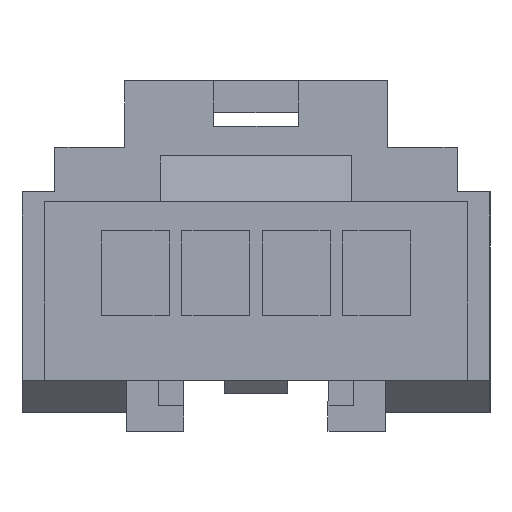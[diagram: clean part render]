
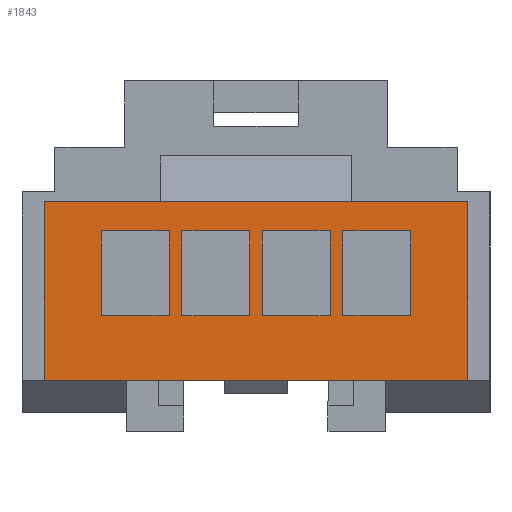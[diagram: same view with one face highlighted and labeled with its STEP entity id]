
A CAD part, front view. The second image highlights one B-rep face of the part: STEP entity #1843.
In plain terms, the highlighted planar face has unit normal (0, -1, 0).
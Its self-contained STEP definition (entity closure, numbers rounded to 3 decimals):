
#1687=AXIS2_PLACEMENT_3D('Plane Axis2P3D',#1684,#1685,#1686) ;
#450=CARTESIAN_POINT('Vertex',(10.,-18.25,-5.85)) ;
#453=CARTESIAN_POINT('Line Origine',(0.,-18.25,-5.85)) ;
#457=CARTESIAN_POINT('Vertex',(-10.,-18.25,-5.85)) ;
#1662=CARTESIAN_POINT('Vertex',(10.,-18.25,2.6)) ;
#1667=CARTESIAN_POINT('Line Origine',(10.,-18.25,-1.625)) ;
#1684=CARTESIAN_POINT('Axis2P3D Location',(-10.4,-18.25,-6.019)) ;
#1689=CARTESIAN_POINT('Line Origine',(0.,-18.25,2.6)) ;
#1693=CARTESIAN_POINT('Vertex',(-10.,-18.25,2.6)) ;
#1696=CARTESIAN_POINT('Line Origine',(-10.,-18.25,-1.625)) ;
#1707=CARTESIAN_POINT('Line Origine',(-5.7,-18.25,1.21)) ;
#1711=CARTESIAN_POINT('Vertex',(-4.1,-18.25,1.21)) ;
#1713=CARTESIAN_POINT('Vertex',(-7.3,-18.25,1.21)) ;
#1716=CARTESIAN_POINT('Line Origine',(-4.1,-18.25,-0.79)) ;
#1720=CARTESIAN_POINT('Vertex',(-4.1,-18.25,-2.79)) ;
#1723=CARTESIAN_POINT('Line Origine',(-5.7,-18.25,-2.79)) ;
#1727=CARTESIAN_POINT('Vertex',(-7.3,-18.25,-2.79)) ;
#1730=CARTESIAN_POINT('Line Origine',(-7.3,-18.25,-0.79)) ;
#1741=CARTESIAN_POINT('Line Origine',(-1.9,-18.25,1.21)) ;
#1745=CARTESIAN_POINT('Vertex',(-0.3,-18.25,1.21)) ;
#1747=CARTESIAN_POINT('Vertex',(-3.5,-18.25,1.21)) ;
#1750=CARTESIAN_POINT('Line Origine',(-0.3,-18.25,-0.79)) ;
#1754=CARTESIAN_POINT('Vertex',(-0.3,-18.25,-2.79)) ;
#1757=CARTESIAN_POINT('Line Origine',(-1.9,-18.25,-2.79)) ;
#1761=CARTESIAN_POINT('Vertex',(-3.5,-18.25,-2.79)) ;
#1764=CARTESIAN_POINT('Line Origine',(-3.5,-18.25,-0.79)) ;
#1775=CARTESIAN_POINT('Line Origine',(1.9,-18.25,1.21)) ;
#1779=CARTESIAN_POINT('Vertex',(3.5,-18.25,1.21)) ;
#1781=CARTESIAN_POINT('Vertex',(0.3,-18.25,1.21)) ;
#1784=CARTESIAN_POINT('Line Origine',(3.5,-18.25,-0.79)) ;
#1788=CARTESIAN_POINT('Vertex',(3.5,-18.25,-2.79)) ;
#1791=CARTESIAN_POINT('Line Origine',(1.9,-18.25,-2.79)) ;
#1795=CARTESIAN_POINT('Vertex',(0.3,-18.25,-2.79)) ;
#1798=CARTESIAN_POINT('Line Origine',(0.3,-18.25,-0.79)) ;
#1809=CARTESIAN_POINT('Line Origine',(5.7,-18.25,1.21)) ;
#1813=CARTESIAN_POINT('Vertex',(7.3,-18.25,1.21)) ;
#1815=CARTESIAN_POINT('Vertex',(4.1,-18.25,1.21)) ;
#1818=CARTESIAN_POINT('Line Origine',(7.3,-18.25,-0.79)) ;
#1822=CARTESIAN_POINT('Vertex',(7.3,-18.25,-2.79)) ;
#1825=CARTESIAN_POINT('Line Origine',(5.7,-18.25,-2.79)) ;
#1829=CARTESIAN_POINT('Vertex',(4.1,-18.25,-2.79)) ;
#1832=CARTESIAN_POINT('Line Origine',(4.1,-18.25,-0.79)) ;
#454=DIRECTION('Vector Direction',(-1.,0.,0.)) ;
#1668=DIRECTION('Vector Direction',(0.,0.,-1.)) ;
#1685=DIRECTION('Axis2P3D Direction',(0.,-1.,0.)) ;
#1686=DIRECTION('Axis2P3D XDirection',(1.,0.,0.)) ;
#1690=DIRECTION('Vector Direction',(1.,0.,0.)) ;
#1697=DIRECTION('Vector Direction',(0.,0.,1.)) ;
#1708=DIRECTION('Vector Direction',(1.,0.,0.)) ;
#1717=DIRECTION('Vector Direction',(0.,0.,1.)) ;
#1724=DIRECTION('Vector Direction',(-1.,0.,0.)) ;
#1731=DIRECTION('Vector Direction',(0.,0.,-1.)) ;
#1742=DIRECTION('Vector Direction',(1.,0.,0.)) ;
#1751=DIRECTION('Vector Direction',(0.,0.,1.)) ;
#1758=DIRECTION('Vector Direction',(-1.,0.,0.)) ;
#1765=DIRECTION('Vector Direction',(0.,0.,-1.)) ;
#1776=DIRECTION('Vector Direction',(1.,0.,0.)) ;
#1785=DIRECTION('Vector Direction',(0.,0.,1.)) ;
#1792=DIRECTION('Vector Direction',(-1.,0.,0.)) ;
#1799=DIRECTION('Vector Direction',(0.,0.,-1.)) ;
#1810=DIRECTION('Vector Direction',(1.,0.,0.)) ;
#1819=DIRECTION('Vector Direction',(0.,0.,1.)) ;
#1826=DIRECTION('Vector Direction',(-1.,0.,0.)) ;
#1833=DIRECTION('Vector Direction',(0.,0.,-1.)) ;
#455=VECTOR('Line Direction',#454,1.) ;
#1669=VECTOR('Line Direction',#1668,1.) ;
#1691=VECTOR('Line Direction',#1690,1.) ;
#1698=VECTOR('Line Direction',#1697,1.) ;
#1709=VECTOR('Line Direction',#1708,1.) ;
#1718=VECTOR('Line Direction',#1717,1.) ;
#1725=VECTOR('Line Direction',#1724,1.) ;
#1732=VECTOR('Line Direction',#1731,1.) ;
#1743=VECTOR('Line Direction',#1742,1.) ;
#1752=VECTOR('Line Direction',#1751,1.) ;
#1759=VECTOR('Line Direction',#1758,1.) ;
#1766=VECTOR('Line Direction',#1765,1.) ;
#1777=VECTOR('Line Direction',#1776,1.) ;
#1786=VECTOR('Line Direction',#1785,1.) ;
#1793=VECTOR('Line Direction',#1792,1.) ;
#1800=VECTOR('Line Direction',#1799,1.) ;
#1811=VECTOR('Line Direction',#1810,1.) ;
#1820=VECTOR('Line Direction',#1819,1.) ;
#1827=VECTOR('Line Direction',#1826,1.) ;
#1834=VECTOR('Line Direction',#1833,1.) ;
#1702=ORIENTED_EDGE('',*,*,#459,.F.) ;
#1703=ORIENTED_EDGE('',*,*,#1671,.F.) ;
#1704=ORIENTED_EDGE('',*,*,#1695,.F.) ;
#1705=ORIENTED_EDGE('',*,*,#1700,.F.) ;
#1736=ORIENTED_EDGE('',*,*,#1715,.F.) ;
#1737=ORIENTED_EDGE('',*,*,#1722,.F.) ;
#1738=ORIENTED_EDGE('',*,*,#1729,.F.) ;
#1739=ORIENTED_EDGE('',*,*,#1734,.F.) ;
#1770=ORIENTED_EDGE('',*,*,#1749,.F.) ;
#1771=ORIENTED_EDGE('',*,*,#1756,.F.) ;
#1772=ORIENTED_EDGE('',*,*,#1763,.F.) ;
#1773=ORIENTED_EDGE('',*,*,#1768,.F.) ;
#1804=ORIENTED_EDGE('',*,*,#1783,.F.) ;
#1805=ORIENTED_EDGE('',*,*,#1790,.F.) ;
#1806=ORIENTED_EDGE('',*,*,#1797,.F.) ;
#1807=ORIENTED_EDGE('',*,*,#1802,.F.) ;
#1838=ORIENTED_EDGE('',*,*,#1817,.F.) ;
#1839=ORIENTED_EDGE('',*,*,#1824,.F.) ;
#1840=ORIENTED_EDGE('',*,*,#1831,.F.) ;
#1841=ORIENTED_EDGE('',*,*,#1836,.F.) ;
#1740=FACE_BOUND('',#1735,.T.) ;
#1774=FACE_BOUND('',#1769,.T.) ;
#1808=FACE_BOUND('',#1803,.T.) ;
#1842=FACE_BOUND('',#1837,.T.) ;
#1843=ADVANCED_FACE('R3',(#1706,#1740,#1774,#1808,#1842),#1688,.T.) ;
#459=EDGE_CURVE('',#451,#458,#456,.T.) ;
#1671=EDGE_CURVE('',#1663,#451,#1670,.T.) ;
#1695=EDGE_CURVE('',#1694,#1663,#1692,.T.) ;
#1700=EDGE_CURVE('',#458,#1694,#1699,.T.) ;
#1715=EDGE_CURVE('',#1712,#1714,#1710,.F.) ;
#1722=EDGE_CURVE('',#1721,#1712,#1719,.T.) ;
#1729=EDGE_CURVE('',#1728,#1721,#1726,.F.) ;
#1734=EDGE_CURVE('',#1714,#1728,#1733,.T.) ;
#1749=EDGE_CURVE('',#1746,#1748,#1744,.F.) ;
#1756=EDGE_CURVE('',#1755,#1746,#1753,.T.) ;
#1763=EDGE_CURVE('',#1762,#1755,#1760,.F.) ;
#1768=EDGE_CURVE('',#1748,#1762,#1767,.T.) ;
#1783=EDGE_CURVE('',#1780,#1782,#1778,.F.) ;
#1790=EDGE_CURVE('',#1789,#1780,#1787,.T.) ;
#1797=EDGE_CURVE('',#1796,#1789,#1794,.F.) ;
#1802=EDGE_CURVE('',#1782,#1796,#1801,.T.) ;
#1817=EDGE_CURVE('',#1814,#1816,#1812,.F.) ;
#1824=EDGE_CURVE('',#1823,#1814,#1821,.T.) ;
#1831=EDGE_CURVE('',#1830,#1823,#1828,.F.) ;
#1836=EDGE_CURVE('',#1816,#1830,#1835,.T.) ;
#1701=EDGE_LOOP('',(#1702,#1703,#1704,#1705)) ;
#1735=EDGE_LOOP('',(#1736,#1737,#1738,#1739)) ;
#1769=EDGE_LOOP('',(#1770,#1771,#1772,#1773)) ;
#1803=EDGE_LOOP('',(#1804,#1805,#1806,#1807)) ;
#1837=EDGE_LOOP('',(#1838,#1839,#1840,#1841)) ;
#1706=FACE_OUTER_BOUND('',#1701,.T.) ;
#456=LINE('Line',#453,#455) ;
#1670=LINE('Line',#1667,#1669) ;
#1692=LINE('Line',#1689,#1691) ;
#1699=LINE('Line',#1696,#1698) ;
#1710=LINE('Line',#1707,#1709) ;
#1719=LINE('Line',#1716,#1718) ;
#1726=LINE('Line',#1723,#1725) ;
#1733=LINE('Line',#1730,#1732) ;
#1744=LINE('Line',#1741,#1743) ;
#1753=LINE('Line',#1750,#1752) ;
#1760=LINE('Line',#1757,#1759) ;
#1767=LINE('Line',#1764,#1766) ;
#1778=LINE('Line',#1775,#1777) ;
#1787=LINE('Line',#1784,#1786) ;
#1794=LINE('Line',#1791,#1793) ;
#1801=LINE('Line',#1798,#1800) ;
#1812=LINE('Line',#1809,#1811) ;
#1821=LINE('Line',#1818,#1820) ;
#1828=LINE('Line',#1825,#1827) ;
#1835=LINE('Line',#1832,#1834) ;
#1688=PLANE('',#1687) ;
#451=VERTEX_POINT('',#450) ;
#458=VERTEX_POINT('',#457) ;
#1663=VERTEX_POINT('',#1662) ;
#1694=VERTEX_POINT('',#1693) ;
#1712=VERTEX_POINT('',#1711) ;
#1714=VERTEX_POINT('',#1713) ;
#1721=VERTEX_POINT('',#1720) ;
#1728=VERTEX_POINT('',#1727) ;
#1746=VERTEX_POINT('',#1745) ;
#1748=VERTEX_POINT('',#1747) ;
#1755=VERTEX_POINT('',#1754) ;
#1762=VERTEX_POINT('',#1761) ;
#1780=VERTEX_POINT('',#1779) ;
#1782=VERTEX_POINT('',#1781) ;
#1789=VERTEX_POINT('',#1788) ;
#1796=VERTEX_POINT('',#1795) ;
#1814=VERTEX_POINT('',#1813) ;
#1816=VERTEX_POINT('',#1815) ;
#1823=VERTEX_POINT('',#1822) ;
#1830=VERTEX_POINT('',#1829) ;
